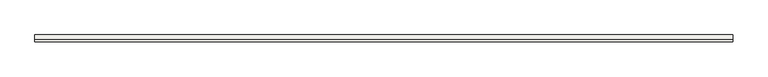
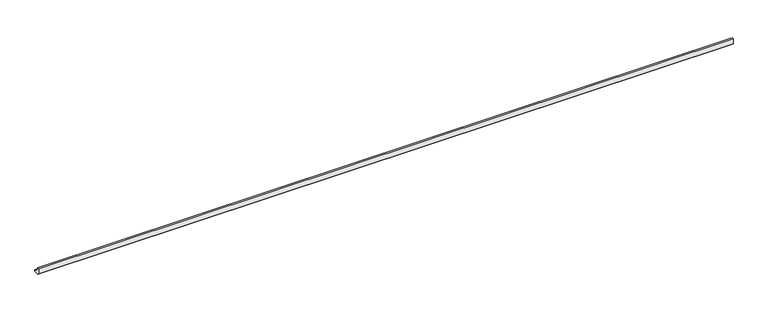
"""IFC4 building model written with IfcOpenShell, lengths in millimetres: slab geometry, ROSA GRES_188 : Pieza 188_Serena_Ocra_Anti-Slip."""

from ifc_helpers import new_model, si_unit, point, frame, frame_2d, origin, place, context, project, spatial, polyline, circle_curve, trimmed, segment, composite_curve, outline, extrude, source, transform, mapped, element, save


def slab_828ca73b(model_context):
    return source(origin(), model_context, "Body", "SweptSolid", [
        extrude(outline(composite_curve([segment(polyline([(0.0, 8.7114978), (0.0, 40.0), (9.9734114, 40.0)]), True, "CONTINUOUS"), segment(trimmed(circle_curve(frame_2d((39.9955547, 39.9955547)), 30.0221435), [point((9.9734114, 40.0))], [point((40.0, 9.9734114))], True, "CARTESIAN"), True, "CONTINUOUS"), segment(polyline([(40.0, 9.9734114), (40.0, 0.0), (8.7114978, 0.0), (0.0, 8.7114978)]), True, "CONTINUOUS")], self_intersect=False)), frame((0.0, 0.0, 0.0), z_axis=(1.0, 0.0, 0.0), x_axis=(0.0, 1.0, 0.0)), (0.0, 0.0, 1.0), 4150.9734114),
    ])


if __name__ == "__main__":
    model = new_model("IFC4")
    model_context = context("Model", 3, world=origin())
    ifc_project = project(units=[si_unit("LENGTHUNIT", "METRE", prefix="MILLI")], contexts=[model_context])
    site = spatial("IfcSite", under=ifc_project)
    building = spatial("IfcBuilding", under=site)
    placement = place(None, origin())
    slab_shape = slab_828ca73b(model_context)
    element("IfcSlab", 1, ObjectType="ROSA GRES_188 : Pieza 188_Serena_Ocra_Anti-Slip", at=placement, inside=building, context=model_context, shape_type="MappedRepresentation", body=[
        mapped(slab_shape, transform((0.0, 0.0, 0.0), x_axis=(1.0, 0.0, 0.0), y_axis=(0.0, 1.0, 0.0), z_axis=(0.0, 0.0, 1.0))),
    ])
    save(model, "model.ifc")
